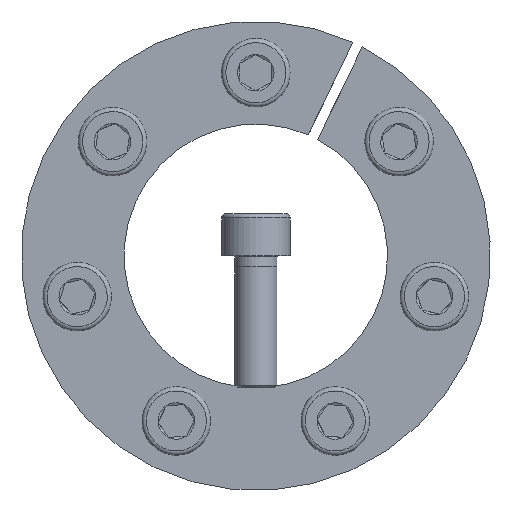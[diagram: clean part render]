
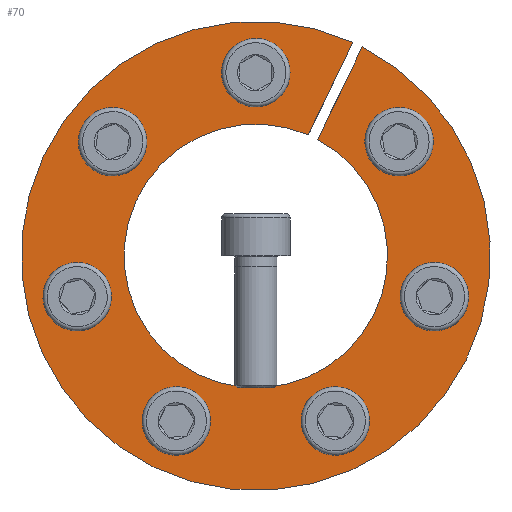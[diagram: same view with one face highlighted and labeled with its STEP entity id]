
A CAD part, front view. The second image highlights one B-rep face of the part: STEP entity #70.
In plain terms, the highlighted planar face has unit normal (0, -1, 0).
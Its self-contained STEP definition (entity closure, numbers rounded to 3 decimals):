
#70 = ADVANCED_FACE( '', ( #154, #155, #156, #157, #158, #159, #160, #161 ), #162, .F. );
#154 = FACE_BOUND( '', #302, .T. );
#155 = FACE_BOUND( '', #303, .T. );
#156 = FACE_BOUND( '', #304, .T. );
#157 = FACE_BOUND( '', #305, .T. );
#158 = FACE_BOUND( '', #306, .T. );
#159 = FACE_BOUND( '', #307, .T. );
#160 = FACE_BOUND( '', #308, .T. );
#161 = FACE_OUTER_BOUND( '', #309, .T. );
#162 = PLANE( '', #310 );
#302 = EDGE_LOOP( '', ( #474 ) );
#303 = EDGE_LOOP( '', ( #475 ) );
#304 = EDGE_LOOP( '', ( #476 ) );
#305 = EDGE_LOOP( '', ( #477 ) );
#306 = EDGE_LOOP( '', ( #478 ) );
#307 = EDGE_LOOP( '', ( #479 ) );
#308 = EDGE_LOOP( '', ( #480 ) );
#309 = EDGE_LOOP( '', ( #481, #482, #483, #484 ) );
#310 = AXIS2_PLACEMENT_3D( '', #485, #486, #487 );
#474 = ORIENTED_EDGE( '', *, *, #752, .T. );
#475 = ORIENTED_EDGE( '', *, *, #753, .T. );
#476 = ORIENTED_EDGE( '', *, *, #754, .T. );
#477 = ORIENTED_EDGE( '', *, *, #755, .T. );
#478 = ORIENTED_EDGE( '', *, *, #756, .T. );
#479 = ORIENTED_EDGE( '', *, *, #757, .T. );
#480 = ORIENTED_EDGE( '', *, *, #758, .T. );
#481 = ORIENTED_EDGE( '', *, *, #759, .T. );
#482 = ORIENTED_EDGE( '', *, *, #760, .T. );
#483 = ORIENTED_EDGE( '', *, *, #761, .T. );
#484 = ORIENTED_EDGE( '', *, *, #762, .F. );
#485 = CARTESIAN_POINT( '', ( 0., 0., 44.5 ) );
#486 = DIRECTION( '', ( 0., 1., 0. ) );
#487 = DIRECTION( '', ( 0., 0., 1. ) );
#752 = EDGE_CURVE( '', #899, #899, #900, .T. );
#753 = EDGE_CURVE( '', #901, #901, #902, .T. );
#754 = EDGE_CURVE( '', #903, #903, #904, .T. );
#755 = EDGE_CURVE( '', #905, #905, #906, .T. );
#756 = EDGE_CURVE( '', #907, #907, #908, .T. );
#757 = EDGE_CURVE( '', #909, #909, #910, .T. );
#758 = EDGE_CURVE( '', #911, #911, #912, .T. );
#759 = EDGE_CURVE( '', #913, #914, #915, .T. );
#760 = EDGE_CURVE( '', #914, #916, #917, .T. );
#761 = EDGE_CURVE( '', #916, #918, #919, .T. );
#762 = EDGE_CURVE( '', #913, #918, #920, .T. );
#899 = VERTEX_POINT( '', #1176 );
#900 = CIRCLE( '', #1177, 4. );
#901 = VERTEX_POINT( '', #1178 );
#902 = CIRCLE( '', #1179, 4. );
#903 = VERTEX_POINT( '', #1180 );
#904 = CIRCLE( '', #1181, 4. );
#905 = VERTEX_POINT( '', #1182 );
#906 = CIRCLE( '', #1183, 4. );
#907 = VERTEX_POINT( '', #1184 );
#908 = CIRCLE( '', #1185, 4. );
#909 = VERTEX_POINT( '', #1186 );
#910 = CIRCLE( '', #1187, 4. );
#911 = VERTEX_POINT( '', #1188 );
#912 = CIRCLE( '', #1189, 4. );
#913 = VERTEX_POINT( '', #1190 );
#914 = VERTEX_POINT( '', #1191 );
#915 = LINE( '', #1192, #1193 );
#916 = VERTEX_POINT( '', #1194 );
#917 = CIRCLE( '', #1195, 44.5 );
#918 = VERTEX_POINT( '', #1196 );
#919 = LINE( '', #1197, #1198 );
#920 = CIRCLE( '', #1199, 25. );
#1176 = CARTESIAN_POINT( '', ( -24.675, 0., 24.794 ) );
#1177 = AXIS2_PLACEMENT_3D( '', #1371, #1372, #1373 );
#1178 = CARTESIAN_POINT( '', ( -18.681, 0., -29.573 ) );
#1179 = AXIS2_PLACEMENT_3D( '', #1374, #1375, #1376 );
#1180 = CARTESIAN_POINT( '', ( 32.989, 0., -11.632 ) );
#1181 = AXIS2_PLACEMENT_3D( '', #1377, #1378, #1379 );
#1182 = CARTESIAN_POINT( '', ( 4., 0., 34.75 ) );
#1183 = AXIS2_PLACEMENT_3D( '', #1380, #1381, #1382 );
#1184 = CARTESIAN_POINT( '', ( 29.663, 0., 18.539 ) );
#1185 = AXIS2_PLACEMENT_3D( '', #1383, #1384, #1385 );
#1186 = CARTESIAN_POINT( '', ( 11.474, 0., -33.044 ) );
#1187 = AXIS2_PLACEMENT_3D( '', #1386, #1387, #1388 );
#1188 = CARTESIAN_POINT( '', ( -34.769, 0., -3.833 ) );
#1189 = AXIS2_PLACEMENT_3D( '', #1389, #1390, #1391 );
#1190 = CARTESIAN_POINT( '', ( 9.937, 0., 22.94 ) );
#1191 = CARTESIAN_POINT( '', ( 18.402, 0., 40.517 ) );
#1192 = CARTESIAN_POINT( '', ( 9.937, 0., 22.94 ) );
#1193 = VECTOR( '', #1392, 1000. );
#1194 = CARTESIAN_POINT( '', ( 20.204, 0., 39.649 ) );
#1195 = AXIS2_PLACEMENT_3D( '', #1393, #1394, #1395 );
#1196 = CARTESIAN_POINT( '', ( 11.739, 0., 22.072 ) );
#1197 = CARTESIAN_POINT( '', ( 20.209, 0., 39.659 ) );
#1198 = VECTOR( '', #1396, 1000. );
#1199 = AXIS2_PLACEMENT_3D( '', #1397, #1398, #1399 );
#1371 = CARTESIAN_POINT( '', ( -27.169, 0., 21.666 ) );
#1372 = DIRECTION( '', ( 0., 1., 0. ) );
#1373 = DIRECTION( '', ( 0.623, 0., 0.782 ) );
#1374 = CARTESIAN_POINT( '', ( -15.077, 0., -31.309 ) );
#1375 = DIRECTION( '', ( 0., 1., 0. ) );
#1376 = DIRECTION( '', ( -0.901, 0., 0.434 ) );
#1377 = CARTESIAN_POINT( '', ( 33.879, 0., -7.733 ) );
#1378 = DIRECTION( '', ( 0., 1., 0. ) );
#1379 = DIRECTION( '', ( -0.223, 0., -0.975 ) );
#1380 = CARTESIAN_POINT( '', ( 0., 0., 34.75 ) );
#1381 = DIRECTION( '', ( 0., 1., 0. ) );
#1382 = DIRECTION( '', ( 1., 0., 0. ) );
#1383 = CARTESIAN_POINT( '', ( 27.169, 0., 21.666 ) );
#1384 = DIRECTION( '', ( 0., 1., 0. ) );
#1385 = DIRECTION( '', ( 0.623, 0., -0.782 ) );
#1386 = CARTESIAN_POINT( '', ( 15.077, 0., -31.309 ) );
#1387 = DIRECTION( '', ( 0., 1., 0. ) );
#1388 = DIRECTION( '', ( -0.901, 0., -0.434 ) );
#1389 = CARTESIAN_POINT( '', ( -33.879, 0., -7.733 ) );
#1390 = DIRECTION( '', ( 0., 1., 0. ) );
#1391 = DIRECTION( '', ( -0.223, 0., 0.975 ) );
#1392 = DIRECTION( '', ( 0.434, 0., 0.901 ) );
#1393 = CARTESIAN_POINT( '', ( 0., 0., 0. ) );
#1394 = DIRECTION( '', ( 0., -1., 0. ) );
#1395 = DIRECTION( '', ( 0., 0., -1. ) );
#1396 = DIRECTION( '', ( -0.434, 0., -0.901 ) );
#1397 = CARTESIAN_POINT( '', ( 0., 0., 0. ) );
#1398 = DIRECTION( '', ( 0., -1., 0. ) );
#1399 = DIRECTION( '', ( 0., 0., -1. ) );
